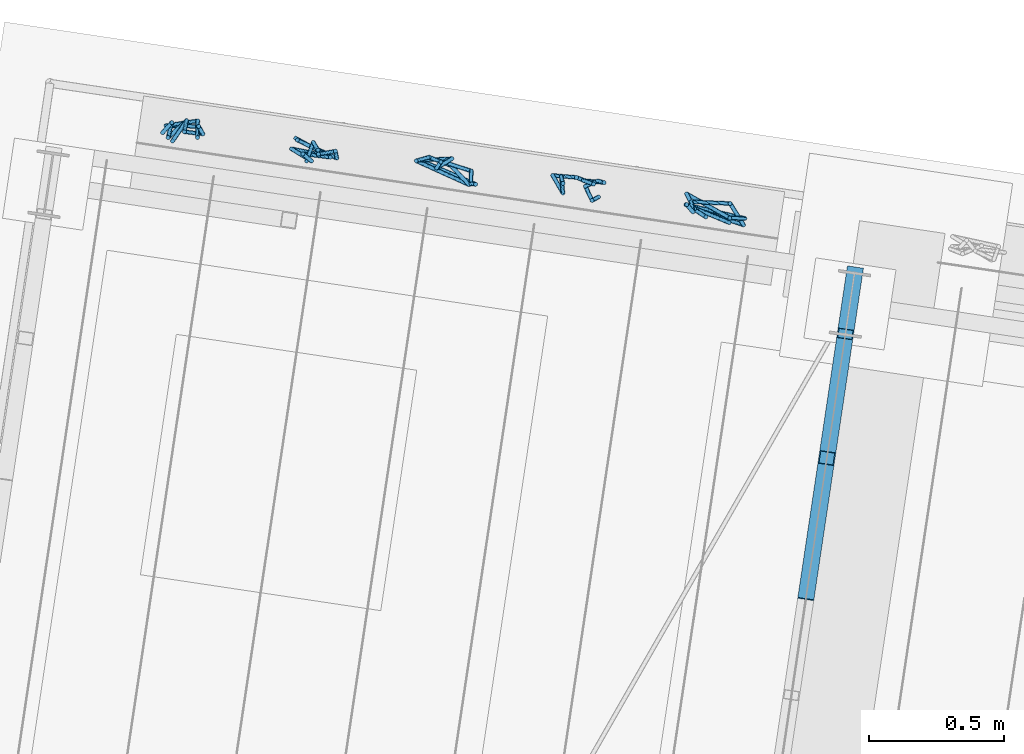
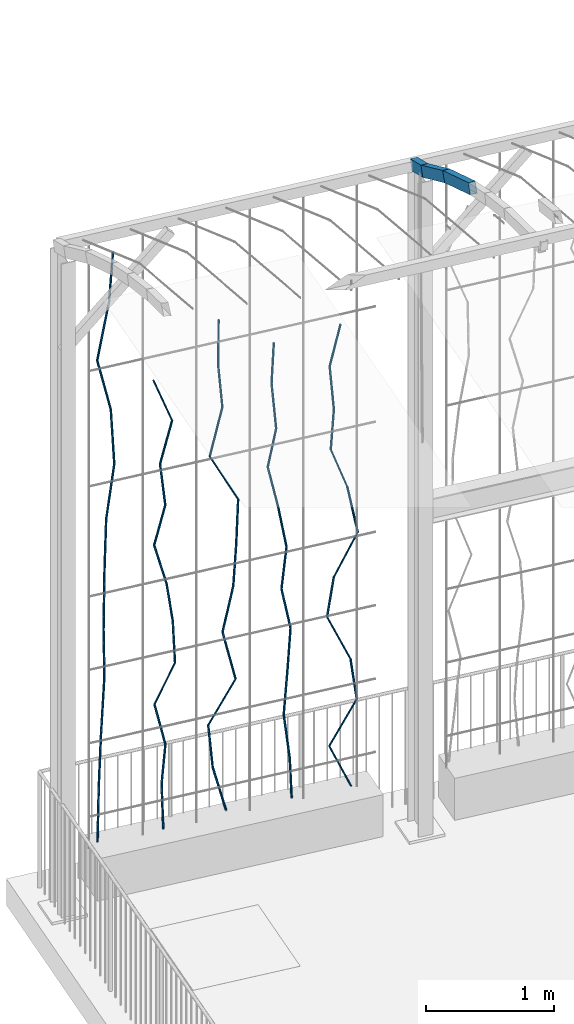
# One storey, part 112 of 142: 58 members, 2 elements without a shape of their own.
"""IFC4 building model written with IfcOpenShell, lengths in metres."""

from ifc_helpers import new_model, si_unit, direction, frame, origin_with_axes, place, context, subcontext, project, spatial, hollow_rectangle, circle, extrude, material, material_profile, profile_set, profile_usage, type_object, element, aggregate, save


model = new_model("IFC4")

# Units and contexts
model_context = context("Model", 3, precision=1e-05, world=origin_with_axes(), true_north=direction((0.0, 1.0)))
body_context = subcontext(model_context, "Body", "Model", "MODEL_VIEW")
ifc_project = project(units=[si_unit("LENGTHUNIT", "METRE"), si_unit("AREAUNIT", "SQUARE_METRE"), si_unit("VOLUMEUNIT", "CUBIC_METRE")], contexts=[model_context])

# Site, building, storey
site_placement = place(None, origin_with_axes())
site = spatial("IfcSite", under=ifc_project, at=site_placement, Name="Lares · Rua das Mercês · artigo 4771")
building_placement = place(site_placement, frame((15.0, 9.7, 14.65), z_axis=(0.0, 0.0, 1.0), x_axis=(0.989015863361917, -0.147809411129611, 0.0)))
building = spatial("IfcBuilding", under=site, at=building_placement, Name="Casa Sobreposta")
storey_placement = place(building_placement, origin_with_axes())
storey = spatial("IfcBuildingStorey", under=building, at=storey_placement, Name="00 · Habitação e estacionamento", Elevation=14.65)

# Assembly, members
assembly_1_placement = place(storey_placement, origin_with_axes())
assembly_1 = element("IfcElementAssembly", 1, at=assembly_1_placement, inside=storey, Name="Pérgola · prolongamento da estufa 6 m", ObjectType="PERGOLA_GREENHOUSE_EXTENSION", PredefinedType="USERDEFINED")
ifc_material_1 = material(Name="Aço pintado / Stahl lackiert", Category="steel")
ifc_material_profile_1 = material_profile(ifc_material_1, hollow_rectangle(XDim=0.06, YDim=0.1, WallThickness=0.004))
ifc_profile_set_1 = profile_set([ifc_material_profile_1], Name="RHS100x60x4")
ifc_profile_usage_1 = profile_usage(ifc_profile_set_1)
member_type_1 = type_object("IfcMemberType", Name="RHS100x60x4 / steel", PredefinedType="NOTDEFINED", material=ifc_profile_set_1)
member_1_placement = place(assembly_1_placement, frame((-3.0, 5.15650506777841, 6.8157371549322), z_axis=(0.0, 0.915895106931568, -0.401417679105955), x_axis=(1.0, 0.0, 0.0)))
member_1 = element("IfcMember", 2, at=member_1_placement, type_object=member_type_1, material=ifc_profile_usage_1, Name="Pérgola · arco contínuo com a estufa", context=body_context, shape_type="SweptSolid", body=[
    extrude(hollow_rectangle(XDim=0.06, YDim=0.1, WallThickness=0.004), origin_with_axes(), (0.0, 0.0, 1.0), 0.596721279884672),
])
ifc_profile_usage_2 = profile_usage(ifc_profile_set_1)
member_2_placement = place(assembly_1_placement, frame((-3.0, 5.70303916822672, 6.57620268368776), z_axis=(0.0, 0.878867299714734, -0.477066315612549), x_axis=(1.0, 0.0, 0.0)))
member_2 = element("IfcMember", 3, at=member_2_placement, type_object=member_type_1, material=ifc_profile_usage_2, Name="Pérgola · arco contínuo com a estufa", context=body_context, shape_type="SweptSolid", body=[
    extrude(hollow_rectangle(XDim=0.06, YDim=0.1, WallThickness=0.004), origin_with_axes(), (0.0, 0.0, 1.0), 0.52859183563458),
])
ifc_profile_usage_3 = profile_usage(ifc_profile_set_1)
member_3_placement = place(assembly_1_placement, frame((-3.0, 6.16760124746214, 6.3240293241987), z_axis=(0.0, 0.932880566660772, -0.360185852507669), x_axis=(1.0, 0.0, 0.0)))
member_3 = element("IfcMember", 4, at=member_3_placement, type_object=member_type_1, material=ifc_profile_usage_3, Name="Pérgola · arco contínuo com a estufa", context=body_context, shape_type="SweptSolid", body=[
    extrude(hollow_rectangle(XDim=0.06, YDim=0.1, WallThickness=0.004), origin_with_axes(), (0.0, 0.0, 1.0), 0.249119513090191),
])
aggregate(assembly_1, [member_1, member_2, member_3])

assembly_2_placement = place(storey_placement, origin_with_axes())
assembly_2 = element("IfcElementAssembly", 5, at=assembly_2_placement, inside=storey, Name="Fachada sul e pátio · estrutura e trepadeiras", ObjectType="LIVING_SHADE_TRELLIS", PredefinedType="USERDEFINED")
ifc_material_2 = material(Name="Ramos de trepadeiras", Category="wood")
ifc_material_profile_2 = material_profile(ifc_material_2, circle(Radius=0.0075))
ifc_profile_set_2 = profile_set([ifc_material_profile_2], Name="D0.015")
ifc_profile_usage_4 = profile_usage(ifc_profile_set_2)
member_type_2 = type_object("IfcMemberType", Name="D0.015 / vine_wood", PredefinedType="NOTDEFINED", material=ifc_profile_set_2)
member_4_placement = place(assembly_2_placement, frame((-5.61062551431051, 6.53102255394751, 0.35), z_axis=(0.0548183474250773, 0.0823641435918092, 0.995093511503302), x_axis=(0.83247493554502, -0.554062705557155, 0.0)))
member_4 = element("IfcMember", 6, at=member_4_placement, type_object=member_type_2, material=ifc_profile_usage_4, Name="Trepadeiras · ramo", context=body_context, shape_type="SweptSolid", body=[
    extrude(circle(Radius=0.0075), origin_with_axes(), (0.0, 0.0, 1.0), 0.511123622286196),
])
ifc_profile_usage_5 = profile_usage(ifc_profile_set_2)
member_5_placement = place(assembly_2_placement, frame((-5.58260656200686, 6.57312081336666, 0.858615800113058), z_axis=(-0.00976761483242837, -0.111772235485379, 0.993685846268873), x_axis=(-0.996203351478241, 0.0870567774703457, 0.0)))
member_5 = element("IfcMember", 7, at=member_5_placement, type_object=member_type_2, material=ifc_profile_usage_5, Name="Trepadeiras · ramo", context=body_context, shape_type="SweptSolid", body=[
    extrude(circle(Radius=0.0075), origin_with_axes(), (0.0, 0.0, 1.0), 0.511847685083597),
])
ifc_profile_usage_6 = profile_usage(ifc_profile_set_2)
member_6_placement = place(assembly_2_placement, frame((-5.58760609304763, 6.51591045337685, 1.36723160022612), z_axis=(0.112625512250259, 0.141112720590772, 0.983566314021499), x_axis=(0.781583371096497, -0.6238007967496, 0.0)))
member_6 = element("IfcMember", 8, at=member_6_placement, type_object=member_type_2, material=ifc_profile_usage_6, Name="Trepadeiras · ramo", context=body_context, shape_type="SweptSolid", body=[
    extrude(circle(Radius=0.0075), origin_with_axes(), (0.0, 0.0, 1.0), 0.517113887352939),
])
ifc_profile_usage_7 = profile_usage(ifc_profile_set_2)
member_7_placement = place(assembly_2_placement, frame((-5.52936587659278, 6.58888180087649, 1.87584740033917), z_axis=(-0.0781133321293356, -0.161839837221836, 0.983720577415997), x_axis=(-0.90058702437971, 0.434675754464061, 0.0)))
member_7 = element("IfcMember", 9, at=member_7_placement, type_object=member_type_2, material=ifc_profile_usage_7, Name="Trepadeiras · ramo", context=body_context, shape_type="SweptSolid", body=[
    extrude(circle(Radius=0.0075), origin_with_axes(), (0.0, 0.0, 1.0), 0.517032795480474),
])
ifc_profile_usage_8 = profile_usage(ifc_profile_set_2)
member_8_placement = place(assembly_2_placement, frame((-5.56975303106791, 6.50520529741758, 2.38446320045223), z_axis=(0.078738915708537, 0.159780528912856, 0.984007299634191), x_axis=(0.89699768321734, -0.442035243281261, 0.0)))
member_8 = element("IfcMember", 10, at=member_8_placement, type_object=member_type_2, material=ifc_profile_usage_8, Name="Trepadeiras · ramo", context=body_context, shape_type="SweptSolid", body=[
    extrude(circle(Radius=0.0075), origin_with_axes(), (0.0, 0.0, 1.0), 0.516882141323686),
])
ifc_profile_usage_9 = profile_usage(ifc_profile_set_2)
member_9_placement = place(assembly_2_placement, frame((-5.52905429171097, 6.58779299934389, 2.89307900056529), z_axis=(-0.00477616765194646, -0.0816811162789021, 0.996647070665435), x_axis=(-0.998294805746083, 0.0583736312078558, 0.0)))
member_9 = element("IfcMember", 11, at=member_9_placement, type_object=member_type_2, material=ifc_profile_usage_9, Name="Trepadeiras · ramo", context=body_context, shape_type="SweptSolid", body=[
    extrude(circle(Radius=0.0075), origin_with_axes(), (0.0, 0.0, 1.0), 0.510326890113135),
])
ifc_profile_usage_10 = profile_usage(ifc_profile_set_2)
member_10_placement = place(assembly_2_placement, frame((-5.53149169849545, 6.54610892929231, 3.40169480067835), z_axis=(0.134710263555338, 0.00481535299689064, 0.990873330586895), x_axis=(0.0357231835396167, -0.999361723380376, -7.96985533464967e-19)))
member_10 = element("IfcMember", 12, at=member_10_placement, type_object=member_type_2, material=ifc_profile_usage_10, Name="Trepadeiras · ramo", context=body_context, shape_type="SweptSolid", body=[
    extrude(circle(Radius=0.0075), origin_with_axes(), (0.0, 0.0, 1.0), 0.513300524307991),
])
ifc_profile_usage_11 = profile_usage(ifc_profile_set_2)
member_11_placement = place(assembly_2_placement, frame((-5.46234484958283, 6.54858065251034, 3.91031060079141), z_axis=(-0.0383027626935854, 0.0489541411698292, 0.99806632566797), x_axis=(0.787576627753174, 0.616216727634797, 0.0)))
member_11 = element("IfcMember", 13, at=member_11_placement, type_object=member_type_2, material=ifc_profile_usage_11, Name="Trepadeiras · ramo", context=body_context, shape_type="SweptSolid", body=[
    extrude(circle(Radius=0.0075), origin_with_axes(), (0.0, 0.0, 1.0), 0.509601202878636),
])
ifc_profile_usage_12 = profile_usage(ifc_profile_set_2)
member_12_placement = place(assembly_2_placement, frame((-5.48186398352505, 6.57352774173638, 4.41892640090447), z_axis=(-0.229983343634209, -0.028965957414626, 0.972763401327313), x_axis=(-0.124960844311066, 0.992161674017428, 0.0)))
member_12 = element("IfcMember", 14, at=member_12_placement, type_object=member_type_2, material=ifc_profile_usage_12, Name="Trepadeiras · ramo", context=body_context, shape_type="SweptSolid", body=[
    extrude(circle(Radius=0.0075), origin_with_axes(), (0.0, 0.0, 1.0), 0.522856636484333),
])
ifc_profile_usage_13 = profile_usage(ifc_profile_set_2)
member_13_placement = place(assembly_2_placement, frame((-5.60211230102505, 6.55838269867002, 4.92754220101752), z_axis=(0.217821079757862, 0.0672022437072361, 0.973672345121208), x_axis=(0.294808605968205, -0.955556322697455, 0.0)))
member_13 = element("IfcMember", 15, at=member_13_placement, type_object=member_type_2, material=ifc_profile_usage_13, Name="Trepadeiras · ramo", context=body_context, shape_type="SweptSolid", body=[
    extrude(circle(Radius=0.0075), origin_with_axes(), (0.0, 0.0, 1.0), 0.522368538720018),
])
ifc_profile_usage_14 = profile_usage(ifc_profile_set_2)
member_14_placement = place(assembly_2_placement, frame((-5.48832942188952, 6.59348703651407, 5.43615800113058), z_axis=(0.0159287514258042, -0.120372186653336, 0.992601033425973), x_axis=(-0.991357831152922, -0.131185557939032, 0.0)))
member_14 = element("IfcMember", 16, at=member_14_placement, type_object=member_type_2, material=ifc_profile_usage_14, Name="Trepadeiras · ramo", context=body_context, shape_type="SweptSolid", body=[
    extrude(circle(Radius=0.0075), origin_with_axes(), (0.0, 0.0, 1.0), 0.512407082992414),
])
ifc_profile_usage_15 = profile_usage(ifc_profile_set_2)
member_15_placement = place(assembly_2_placement, frame((-5.06742901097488, 6.50636980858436, 0.35), z_axis=(0.0353901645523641, 0.18278637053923, 0.982515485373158), x_axis=(0.981767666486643, -0.190084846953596, 0.0)))
member_15 = element("IfcMember", 17, at=member_15_placement, type_object=member_type_2, material=ifc_profile_usage_15, Name="Trepadeiras · ramo", context=body_context, shape_type="SweptSolid", body=[
    extrude(circle(Radius=0.0075), origin_with_axes(), (0.0, 0.0, 1.0), 0.393038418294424),
])
ifc_profile_usage_16 = profile_usage(ifc_profile_set_2)
member_16_placement = place(assembly_2_placement, frame((-5.05351931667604, 6.57821187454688, 0.736166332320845), z_axis=(0.0556737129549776, -0.068234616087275, 0.996114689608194), x_axis=(-0.774817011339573, -0.632185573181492, 0.0)))
member_16 = element("IfcMember", 18, at=member_16_placement, type_object=member_type_2, material=ifc_profile_usage_16, Name="Trepadeiras · ramo", context=body_context, shape_type="SweptSolid", body=[
    extrude(circle(Radius=0.0075), origin_with_axes(), (0.0, 0.0, 1.0), 0.387672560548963),
])
ifc_profile_usage_17 = profile_usage(ifc_profile_set_2)
member_17_placement = place(assembly_2_placement, frame((-5.03193614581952, 6.55175918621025, 1.12233266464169), z_axis=(-0.205369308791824, 0.0655980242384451, 0.976483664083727), x_axis=(0.304270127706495, 0.952585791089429, 0.0)))
member_17 = element("IfcMember", 19, at=member_17_placement, type_object=member_type_2, material=ifc_profile_usage_17, Name="Trepadeiras · ramo", context=body_context, shape_type="SweptSolid", body=[
    extrude(circle(Radius=0.0075), origin_with_axes(), (0.0, 0.0, 1.0), 0.395466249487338),
])
ifc_profile_usage_18 = profile_usage(ifc_profile_set_2)
member_18_placement = place(assembly_2_placement, frame((-5.11315277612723, 6.57770099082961, 1.50849899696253), z_axis=(0.369026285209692, -0.107377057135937, 0.923195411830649), x_axis=(-0.279387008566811, -0.960178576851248, -1.66678120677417e-17)))
member_18 = element("IfcMember", 20, at=member_18_placement, type_object=member_type_2, material=ifc_profile_usage_18, Name="Trepadeiras · ramo", context=body_context, shape_type="SweptSolid", body=[
    extrude(circle(Radius=0.0075), origin_with_axes(), (0.0, 0.0, 1.0), 0.41829316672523),
])
ifc_profile_usage_19 = profile_usage(ifc_profile_set_2)
member_19_placement = place(assembly_2_placement, frame((-4.95879160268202, 6.53278590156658, 1.89466532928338), z_axis=(-0.0229513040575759, 0.0642605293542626, 0.997669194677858), x_axis=(0.941736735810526, 0.336350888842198, 3.17038529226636e-18)))
member_19 = element("IfcMember", 21, at=member_19_placement, type_object=member_type_2, material=ifc_profile_usage_19, Name="Trepadeiras · ramo", context=body_context, shape_type="SweptSolid", body=[
    extrude(circle(Radius=0.0075), origin_with_axes(), (0.0, 0.0, 1.0), 0.387068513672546),
])
ifc_profile_usage_20 = profile_usage(ifc_profile_set_2)
member_20_placement = place(assembly_2_placement, frame((-4.96767532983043, 6.55765912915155, 2.28083166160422), z_axis=(-0.154656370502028, -0.0516676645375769, 0.986616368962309), x_axis=(-0.316865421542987, 0.948470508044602, 0.0)))
member_20 = element("IfcMember", 22, at=member_20_placement, type_object=member_type_2, material=ifc_profile_usage_20, Name="Trepadeiras · ramo", context=body_context, shape_type="SweptSolid", body=[
    extrude(circle(Radius=0.0075), origin_with_axes(), (0.0, 0.0, 1.0), 0.391404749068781),
])
ifc_profile_usage_21 = profile_usage(ifc_profile_set_2)
member_21_placement = place(assembly_2_placement, frame((-5.02820856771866, 6.53743615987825, 2.66699799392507), z_axis=(-0.254671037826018, 0.0128912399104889, 0.966941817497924), x_axis=(0.0505544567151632, 0.998721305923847, 0.0)))
member_21 = element("IfcMember", 23, at=member_21_placement, type_object=member_type_2, material=ifc_profile_usage_21, Name="Trepadeiras · ramo", context=body_context, shape_type="SweptSolid", body=[
    extrude(circle(Radius=0.0075), origin_with_axes(), (0.0, 0.0, 1.0), 0.399368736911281),
])
ifc_profile_usage_22 = profile_usage(ifc_profile_set_2)
member_22_placement = place(assembly_2_placement, frame((-5.12991621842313, 6.54258451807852, 3.05316432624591), z_axis=(0.202327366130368, -0.0854035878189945, 0.975586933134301), x_axis=(-0.388881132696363, -0.921287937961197, 0.0)))
member_22 = element("IfcMember", 24, at=member_22_placement, type_object=member_type_2, material=ifc_profile_usage_22, Name="Trepadeiras · ramo", context=body_context, shape_type="SweptSolid", body=[
    extrude(circle(Radius=0.0075), origin_with_axes(), (0.0, 0.0, 1.0), 0.395829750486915),
])
ifc_profile_usage_23 = profile_usage(ifc_profile_set_2)
member_23_placement = place(assembly_2_placement, frame((-5.04982902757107, 6.50877923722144, 3.43933065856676), z_axis=(-0.0916184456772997, 0.0549727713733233, 0.994275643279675), x_axis=(0.514507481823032, 0.857485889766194, 0.0)))
member_23 = element("IfcMember", 25, at=member_23_placement, type_object=member_type_2, material=ifc_profile_usage_23, Name="Trepadeiras · ramo", context=body_context, shape_type="SweptSolid", body=[
    extrude(circle(Radius=0.0075), origin_with_axes(), (0.0, 0.0, 1.0), 0.388389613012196),
])
ifc_profile_usage_24 = profile_usage(ifc_profile_set_2)
member_24_placement = place(assembly_2_placement, frame((-5.08541268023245, 6.53013009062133, 3.8254969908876), z_axis=(0.256565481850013, 0.00653359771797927, 0.966504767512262), x_axis=(0.0254573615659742, -0.999675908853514, 0.0)))
member_24 = element("IfcMember", 26, at=member_24_placement, type_object=member_type_2, material=ifc_profile_usage_24, Name="Trepadeiras · ramo", context=body_context, shape_type="SweptSolid", body=[
    extrude(circle(Radius=0.0075), origin_with_axes(), (0.0, 0.0, 1.0), 0.39954933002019),
])
ifc_profile_usage_25 = profile_usage(ifc_profile_set_2)
member_25_placement = place(assembly_2_placement, frame((-4.98290211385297, 6.53274058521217, 4.21166332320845), z_axis=(-0.333263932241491, 0.122975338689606, 0.934779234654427), x_axis=(0.346185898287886, 0.938165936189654, 0.0)))
member_25 = element("IfcMember", 27, at=member_25_placement, type_object=member_type_2, material=ifc_profile_usage_25, Name="Trepadeiras · ramo", context=body_context, shape_type="SweptSolid", body=[
    extrude(circle(Radius=0.0075), origin_with_axes(), (0.0, 0.0, 1.0), 0.413109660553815),
])
ifc_profile_usage_26 = profile_usage(ifc_profile_set_2)
member_26_placement = place(assembly_2_placement, frame((-4.516484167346, 6.56319348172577, 0.35), z_axis=(-0.237502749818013, 0.0547067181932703, 0.969845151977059), x_axis=(0.224463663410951, 0.974482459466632, 0.0)))
member_26 = element("IfcMember", 28, at=member_26_placement, type_object=member_type_2, material=ifc_profile_usage_26, Name="Trepadeiras · ramo", context=body_context, shape_type="SweptSolid", body=[
    extrude(circle(Radius=0.0075), origin_with_axes(), (0.0, 0.0, 1.0), 0.439365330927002),
])
ifc_profile_usage_27 = profile_usage(ifc_profile_set_2)
member_27_placement = place(assembly_2_placement, frame((-4.62083464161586, 6.58722971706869, 0.776116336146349), z_axis=(-0.106307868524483, -0.0477073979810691, 0.993188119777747), x_axis=(-0.409428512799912, 0.912342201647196, 0.0)))
member_27 = element("IfcMember", 29, at=member_27_placement, type_object=member_type_2, material=ifc_profile_usage_27, Name="Trepadeiras · ramo", context=body_context, shape_type="SweptSolid", body=[
    extrude(circle(Radius=0.0075), origin_with_axes(), (0.0, 0.0, 1.0), 0.429038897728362),
])
ifc_profile_usage_28 = profile_usage(ifc_profile_set_2)
member_28_placement = place(assembly_2_placement, frame((-4.66644485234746, 6.5667613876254, 1.2022326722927), z_axis=(0.43290575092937, -0.123104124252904, 0.892993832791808), x_axis=(-0.273522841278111, -0.961865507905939, 0.0)))
member_28 = element("IfcMember", 30, at=member_28_placement, type_object=member_type_2, material=ifc_profile_usage_28, Name="Trepadeiras · ramo", context=body_context, shape_type="SweptSolid", body=[
    extrude(circle(Radius=0.0075), origin_with_axes(), (0.0, 0.0, 1.0), 0.47717724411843),
])
ifc_profile_usage_29 = profile_usage(ifc_profile_set_2)
member_29_placement = place(assembly_2_placement, frame((-4.45987207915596, 6.50801890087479, 1.62834900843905), z_axis=(-0.190491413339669, 0.14988591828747, 0.970178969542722), x_axis=(0.618367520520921, 0.785889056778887, 0.0)))
member_29 = element("IfcMember", 31, at=member_29_placement, type_object=member_type_2, material=ifc_profile_usage_29, Name="Trepadeiras · ramo", context=body_context, shape_type="SweptSolid", body=[
    extrude(circle(Radius=0.0075), origin_with_axes(), (0.0, 0.0, 1.0), 0.43921415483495),
])
ifc_profile_usage_30 = profile_usage(ifc_profile_set_2)
member_30_placement = place(assembly_2_placement, frame((-4.54353860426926, 6.57385091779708, 2.0544653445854), z_axis=(0.1941509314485, -0.0330556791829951, 0.980414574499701), x_axis=(-0.167842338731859, -0.985813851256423, -4.3178291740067e-18)))
member_30 = element("IfcMember", 32, at=member_30_placement, type_object=member_type_2, material=ifc_profile_usage_30, Name="Trepadeiras · ramo", context=body_context, shape_type="SweptSolid", body=[
    extrude(circle(Radius=0.0075), origin_with_axes(), (0.0, 0.0, 1.0), 0.434628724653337),
])
ifc_profile_usage_31 = profile_usage(ifc_profile_set_2)
member_31_placement = place(assembly_2_placement, frame((-4.45915503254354, 6.55948397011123, 2.48058168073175), z_axis=(0.0144929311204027, -0.109943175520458, 0.993832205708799), x_axis=(-0.991423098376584, -0.130691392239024, 0.0)))
member_31 = element("IfcMember", 33, at=member_31_placement, type_object=member_type_2, material=ifc_profile_usage_31, Name="Trepadeiras · ramo", context=body_context, shape_type="SweptSolid", body=[
    extrude(circle(Radius=0.0075), origin_with_axes(), (0.0, 0.0, 1.0), 0.428760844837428),
])
ifc_profile_usage_32 = profile_usage(ifc_profile_set_2)
member_32_placement = place(assembly_2_placement, frame((-4.45294103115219, 6.51234464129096, 2.90669801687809), z_axis=(0.0391360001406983, 0.00180597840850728, 0.999232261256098), x_axis=(0.999233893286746, -7.07329602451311e-05, -0.0391359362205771)))
member_32 = element("IfcMember", 34, at=member_32_placement, type_object=member_type_2, material=ifc_profile_usage_32, Name="Trepadeiras · ramo", context=body_context, shape_type="SweptSolid", body=[
    extrude(circle(Radius=0.0075), origin_with_axes(), (0.0, 0.0, 1.0), 0.426443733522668),
])
ifc_profile_usage_33 = profile_usage(ifc_profile_set_2)
member_33_placement = place(assembly_2_placement, frame((-4.43625172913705, 6.51311478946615, 3.33281435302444), z_axis=(-0.448214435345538, 0.121140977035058, 0.885679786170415), x_axis=(0.26091291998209, 0.965362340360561, 0.0)))
member_33 = element("IfcMember", 35, at=member_33_placement, type_object=member_type_2, material=ifc_profile_usage_33, Name="Trepadeiras · ramo", context=body_context, shape_type="SweptSolid", body=[
    extrude(circle(Radius=0.0075), origin_with_axes(), (0.0, 0.0, 1.0), 0.481117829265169),
])
ifc_profile_usage_34 = profile_usage(ifc_profile_set_2)
member_34_placement = place(assembly_2_placement, frame((-4.6518956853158, 6.57139787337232, 3.75893068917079), z_axis=(0.26034641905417, 0.0511473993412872, 0.964159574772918), x_axis=(0.192774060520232, -0.981243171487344, 0.0)))
member_34 = element("IfcMember", 36, at=member_34_placement, type_object=member_type_2, material=ifc_profile_usage_34, Name="Trepadeiras · ramo", context=body_context, shape_type="SweptSolid", body=[
    extrude(circle(Radius=0.0075), origin_with_axes(), (0.0, 0.0, 1.0), 0.441956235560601),
])
ifc_profile_usage_35 = profile_usage(ifc_profile_set_2)
member_35_placement = place(assembly_2_placement, frame((-4.53683396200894, 6.59400278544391, 4.18504702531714), z_axis=(-0.11744994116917, -0.0987498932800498, 0.988156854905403), x_axis=(-0.643543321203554, 0.765409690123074, 0.0)))
member_35 = element("IfcMember", 37, at=member_35_placement, type_object=member_type_2, material=ifc_profile_usage_35, Name="Trepadeiras · ramo", context=body_context, shape_type="SweptSolid", body=[
    extrude(circle(Radius=0.0075), origin_with_axes(), (0.0, 0.0, 1.0), 0.431223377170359),
])
ifc_profile_usage_36 = profile_usage(ifc_profile_set_2)
member_36_placement = place(assembly_2_placement, frame((-4.58748112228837, 6.55141952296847, 4.61116336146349), z_axis=(0.0271477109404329, 0.0579863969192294, 0.997948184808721), x_axis=(0.905659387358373, -0.424005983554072, 0.0)))
member_36 = element("IfcMember", 38, at=member_36_placement, type_object=member_type_2, material=ifc_profile_usage_36, Name="Trepadeiras · ramo", context=body_context, shape_type="SweptSolid", body=[
    extrude(circle(Radius=0.0075), origin_with_axes(), (0.0, 0.0, 1.0), 0.426992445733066),
])
ifc_profile_usage_37 = profile_usage(ifc_profile_set_2)
member_37_placement = place(assembly_2_placement, frame((-3.97859289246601, 6.53402138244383, 0.35), z_axis=(-0.0559624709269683, -0.0404002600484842, 0.997615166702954), x_axis=(-0.585327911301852, 0.810796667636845, 0.0)))
member_37 = element("IfcMember", 39, at=member_37_placement, type_object=member_type_2, material=ifc_profile_usage_37, Name="Trepadeiras · ramo", context=body_context, shape_type="SweptSolid", body=[
    extrude(circle(Radius=0.0075), origin_with_axes(), (0.0, 0.0, 1.0), 0.397059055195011),
])
ifc_profile_usage_38 = profile_usage(ifc_profile_set_2)
member_38_placement = place(assembly_2_placement, frame((-4.00081329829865, 6.51798009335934, 0.746112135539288), z_axis=(-0.0802060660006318, 0.119900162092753, 0.989540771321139), x_axis=(0.831177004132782, 0.556007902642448, 0.0)))
member_38 = element("IfcMember", 40, at=member_38_placement, type_object=member_type_2, material=ifc_profile_usage_38, Name="Trepadeiras · ramo", context=body_context, shape_type="SweptSolid", body=[
    extrude(circle(Radius=0.0075), origin_with_axes(), (0.0, 0.0, 1.0), 0.400298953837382),
])
ifc_profile_usage_39 = profile_usage(ifc_profile_set_2)
member_39_placement = place(assembly_2_placement, frame((-4.03291970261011, 6.56597600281, 1.14222427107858), z_axis=(0.104885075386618, 0.0666123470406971, 0.992250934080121), x_axis=(0.536115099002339, -0.844144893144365, 0.0)))
member_39 = element("IfcMember", 41, at=member_39_placement, type_object=member_type_2, material=ifc_profile_usage_39, Name="Trepadeiras · ramo", context=body_context, shape_type="SweptSolid", body=[
    extrude(circle(Radius=0.0075), origin_with_axes(), (0.0, 0.0, 1.0), 0.399205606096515),
])
ifc_profile_usage_40 = profile_usage(ifc_profile_set_2)
member_40_placement = place(assembly_2_placement, frame((-3.99104899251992, 6.5925680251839, 1.53833640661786), z_axis=(0.0626536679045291, -0.00712374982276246, 0.998009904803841), x_axis=(-0.112972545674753, -0.993598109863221, 0.0)))
member_40 = element("IfcMember", 42, at=member_40_placement, type_object=member_type_2, material=ifc_profile_usage_40, Name="Trepadeiras · ramo", context=body_context, shape_type="SweptSolid", body=[
    extrude(circle(Radius=0.0075), origin_with_axes(), (0.0, 0.0, 1.0), 0.396902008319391),
])
ifc_profile_usage_41 = profile_usage(ifc_profile_set_2)
member_41_placement = place(assembly_2_placement, frame((-3.96618162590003, 6.58974059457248, 1.93444854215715), z_axis=(-0.192543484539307, -0.00909052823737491, 0.981246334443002), x_axis=(-0.0471603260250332, 0.998887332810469, 0.0)))
member_41 = element("IfcMember", 43, at=member_41_placement, type_object=member_type_2, material=ifc_profile_usage_41, Name="Trepadeiras · ramo", context=body_context, shape_type="SweptSolid", body=[
    extrude(circle(Radius=0.0075), origin_with_axes(), (0.0, 0.0, 1.0), 0.403682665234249),
])
ifc_profile_usage_42 = profile_usage(ifc_profile_set_2)
member_42_placement = place(assembly_2_placement, frame((-4.04390809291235, 6.58607090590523, 2.33056067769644), z_axis=(0.0995202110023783, -0.0194869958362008, 0.99484470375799), x_axis=(-0.192160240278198, -0.981363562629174, 0.0)))
member_42 = element("IfcMember", 44, at=member_42_placement, type_object=member_type_2, material=ifc_profile_usage_42, Name="Trepadeiras · ramo", context=body_context, shape_type="SweptSolid", body=[
    extrude(circle(Radius=0.0075), origin_with_axes(), (0.0, 0.0, 1.0), 0.398164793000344),
])
ifc_profile_usage_43 = profile_usage(ifc_profile_set_2)
member_43_placement = place(assembly_2_placement, frame((-4.00428264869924, 6.57831187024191, 2.72667281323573), z_axis=(-0.164761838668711, 0.0378014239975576, 0.985608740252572), x_axis=(0.223620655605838, 0.974676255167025, 0.0)))
member_43 = element("IfcMember", 45, at=member_43_placement, type_object=member_type_2, material=ifc_profile_usage_43, Name="Trepadeiras · ramo", context=body_context, shape_type="SweptSolid", body=[
    extrude(circle(Radius=0.0075), origin_with_axes(), (0.0, 0.0, 1.0), 0.401895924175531),
])
ifc_profile_usage_44 = profile_usage(ifc_profile_set_2)
member_44_placement = place(assembly_2_placement, frame((-4.07049976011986, 6.59350410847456, 3.12278494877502), z_axis=(-0.217023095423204, -0.0139242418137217, 0.976067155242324), x_axis=(-0.0640285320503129, 0.997948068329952, 0.0)))
member_44 = element("IfcMember", 46, at=member_44_placement, type_object=member_type_2, material=ifc_profile_usage_44, Name="Trepadeiras · ramo", context=body_context, shape_type="SweptSolid", body=[
    extrude(circle(Radius=0.0075), origin_with_axes(), (0.0, 0.0, 1.0), 0.405824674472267),
])
ifc_profile_usage_45 = profile_usage(ifc_profile_set_2)
member_45_placement = place(assembly_2_placement, frame((-4.15857308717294, 6.58785330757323, 3.51889708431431), z_axis=(0.117355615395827, -0.146977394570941, 0.982153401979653), x_axis=(-0.781455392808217, -0.623961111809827, 0.0)))
member_45 = element("IfcMember", 47, at=member_45_placement, type_object=member_type_2, material=ifc_profile_usage_45, Name="Trepadeiras · ramo", context=body_context, shape_type="SweptSolid", body=[
    extrude(circle(Radius=0.0075), origin_with_axes(), (0.0, 0.0, 1.0), 0.40330984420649),
])
ifc_profile_usage_46 = profile_usage(ifc_profile_set_2)
member_46_placement = place(assembly_2_placement, frame((-4.1112424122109, 6.52857587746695, 3.91500921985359), z_axis=(-0.038247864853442, 0.148096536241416, 0.988233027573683), x_axis=(0.968230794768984, 0.250058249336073, 0.0)))
member_46 = element("IfcMember", 48, at=member_46_placement, type_object=member_type_2, material=ifc_profile_usage_46, Name="Trepadeiras · ramo", context=body_context, shape_type="SweptSolid", body=[
    extrude(circle(Radius=0.0075), origin_with_axes(), (0.0, 0.0, 1.0), 0.400828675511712),
])
ifc_profile_usage_47 = profile_usage(ifc_profile_set_2)
member_47_placement = place(assembly_2_placement, frame((-4.12657325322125, 6.58793721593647, 4.31112135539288), z_axis=(0.0245630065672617, -0.0592559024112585, 0.997940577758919), x_axis=(-0.923778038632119, -0.382928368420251, 0.0)))
member_47 = element("IfcMember", 49, at=member_47_placement, type_object=member_type_2, material=ifc_profile_usage_47, Name="Trepadeiras · ramo", context=body_context, shape_type="SweptSolid", body=[
    extrude(circle(Radius=0.0075), origin_with_axes(), (0.0, 0.0, 1.0), 0.396929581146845),
])
ifc_profile_usage_48 = profile_usage(ifc_profile_set_2)
member_48_placement = place(assembly_2_placement, frame((-3.48595036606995, 6.51152451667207, 0.35), z_axis=(-0.387050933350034, 0.0963177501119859, 0.917013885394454), x_axis=(0.2414854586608, 0.970404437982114, 0.0)))
member_48 = element("IfcMember", 50, at=member_48_placement, type_object=member_type_2, material=ifc_profile_usage_48, Name="Trepadeiras · ramo", context=body_context, shape_type="SweptSolid", body=[
    extrude(circle(Radius=0.0075), origin_with_axes(), (0.0, 0.0, 1.0), 0.438608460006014),
])
ifc_profile_usage_49 = profile_usage(ifc_profile_set_2)
member_49_placement = place(assembly_2_placement, frame((-3.6557141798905, 6.55377029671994, 0.752210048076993), z_axis=(0.486269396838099, -0.0394758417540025, 0.872916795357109), x_axis=(-0.0809148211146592, -0.996721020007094, -6.2076865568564e-18)))
member_49 = element("IfcMember", 51, at=member_49_placement, type_object=member_type_2, material=ifc_profile_usage_49, Name="Trepadeiras · ramo", context=body_context, shape_type="SweptSolid", body=[
    extrude(circle(Radius=0.0075), origin_with_axes(), (0.0, 0.0, 1.0), 0.46076561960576),
])
ifc_profile_usage_50 = profile_usage(ifc_profile_set_2)
member_50_placement = place(assembly_2_placement, frame((-3.43165795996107, 6.53558118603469, 1.15442009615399), z_axis=(-0.13611773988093, -0.0169348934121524, 0.990547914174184), x_axis=(-0.123461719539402, 0.992349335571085, 0.0)))
member_50 = element("IfcMember", 52, at=member_50_placement, type_object=member_type_2, material=ifc_profile_usage_50, Name="Trepadeiras · ramo", context=body_context, shape_type="SweptSolid", body=[
    extrude(circle(Radius=0.0075), origin_with_axes(), (0.0, 0.0, 1.0), 0.406048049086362),
])
ifc_profile_usage_51 = profile_usage(ifc_profile_set_2)
member_51_placement = place(assembly_2_placement, frame((-3.48692830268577, 6.5287048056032, 1.55663014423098), z_axis=(-0.387536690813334, 0.147038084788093, 0.910052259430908), x_axis=(0.354741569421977, 0.934964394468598, 0.0)))
member_51 = element("IfcMember", 53, at=member_51_placement, type_object=member_type_2, material=ifc_profile_usage_51, Name="Trepadeiras · ramo", context=body_context, shape_type="SweptSolid", body=[
    extrude(circle(Radius=0.0075), origin_with_axes(), (0.0, 0.0, 1.0), 0.441963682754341),
])
ifc_profile_usage_52 = profile_usage(ifc_profile_set_2)
member_52_placement = place(assembly_2_placement, frame((-3.65820544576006, 6.59369029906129, 1.95884019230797), z_axis=(0.0899888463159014, -0.125264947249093, 0.98803375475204), x_axis=(-0.81215464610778, -0.583442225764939, 0.0)))
member_52 = element("IfcMember", 54, at=member_52_placement, type_object=member_type_2, material=ifc_profile_usage_52, Name="Trepadeiras · ramo", context=body_context, shape_type="SweptSolid", body=[
    extrude(circle(Radius=0.0075), origin_with_axes(), (0.0, 0.0, 1.0), 0.407081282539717),
])
ifc_profile_usage_53 = profile_usage(ifc_profile_set_2)
member_53_placement = place(assembly_2_placement, frame((-3.62157267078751, 6.54269728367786, 2.36105024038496), z_axis=(0.423820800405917, -0.0706905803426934, 0.902983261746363), x_axis=(-0.164520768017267, -0.98637361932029, 0.0)))
member_53 = element("IfcMember", 55, at=member_53_placement, type_object=member_type_2, material=ifc_profile_usage_53, Name="Trepadeiras · ramo", context=body_context, shape_type="SweptSolid", body=[
    extrude(circle(Radius=0.0075), origin_with_axes(), (0.0, 0.0, 1.0), 0.445423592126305),
])
ifc_profile_usage_54 = profile_usage(ifc_profile_set_2)
member_54_placement = place(assembly_2_placement, frame((-3.43279288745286, 6.51121003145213, 2.76326028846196), z_axis=(-0.146521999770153, 0.171712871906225, 0.974189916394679), x_axis=(0.760700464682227, 0.649103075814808, 0.0)))
member_54 = element("IfcMember", 56, at=member_54_placement, type_object=member_type_2, material=ifc_profile_usage_54, Name="Trepadeiras · ramo", context=body_context, shape_type="SweptSolid", body=[
    extrude(circle(Radius=0.0075), origin_with_axes(), (0.0, 0.0, 1.0), 0.412866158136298),
])
ifc_profile_usage_55 = profile_usage(ifc_profile_set_2)
member_55_placement = place(assembly_2_placement, frame((-3.49328686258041, 6.5821044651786, 3.16547033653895), z_axis=(-0.337061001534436, -0.0347303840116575, 0.940842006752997), x_axis=(-0.102496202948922, 0.99473339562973, 0.0)))
member_55 = element("IfcMember", 57, at=member_55_placement, type_object=member_type_2, material=ifc_profile_usage_55, Name="Trepadeiras · ramo", context=body_context, shape_type="SweptSolid", body=[
    extrude(circle(Radius=0.0075), origin_with_axes(), (0.0, 0.0, 1.0), 0.427500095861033),
])
ifc_profile_usage_56 = profile_usage(ifc_profile_set_2)
member_56_placement = place(assembly_2_placement, frame((-3.6373804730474, 6.56725722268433, 3.56768038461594), z_axis=(0.0295589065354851, -0.0886838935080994, 0.995621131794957), x_axis=(-0.948690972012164, -0.316204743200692, 0.0)))
member_56 = element("IfcMember", 58, at=member_56_placement, type_object=member_type_2, material=ifc_profile_usage_56, Name="Trepadeiras · ramo", context=body_context, shape_type="SweptSolid", body=[
    extrude(circle(Radius=0.0075), origin_with_axes(), (0.0, 0.0, 1.0), 0.403979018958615),
])
ifc_profile_usage_57 = profile_usage(ifc_profile_set_2)
member_57_placement = place(assembly_2_placement, frame((-3.62543929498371, 6.5314307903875, 3.96989043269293), z_axis=(-0.0654752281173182, 0.056205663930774, 0.9962700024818), x_axis=(0.651352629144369, 0.758775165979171, 0.0)))
member_57 = element("IfcMember", 59, at=member_57_placement, type_object=member_type_2, material=ifc_profile_usage_57, Name="Trepadeiras · ramo", context=body_context, shape_type="SweptSolid", body=[
    extrude(circle(Radius=0.0075), origin_with_axes(), (0.0, 0.0, 1.0), 0.403715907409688),
])
ifc_profile_usage_58 = profile_usage(ifc_profile_set_2)
member_58_placement = place(assembly_2_placement, frame((-3.65187268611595, 6.55412191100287, 4.37210048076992), z_axis=(0.186629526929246, -0.0839762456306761, 0.978834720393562), x_axis=(-0.410336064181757, -0.911934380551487, 0.0)))
member_58 = element("IfcMember", 60, at=member_58_placement, type_object=member_type_2, material=ifc_profile_usage_58, Name="Trepadeiras · ramo", context=body_context, shape_type="SweptSolid", body=[
    extrude(circle(Radius=0.0075), origin_with_axes(), (0.0, 0.0, 1.0), 0.41090700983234),
])
aggregate(assembly_2, [member_4, member_5, member_6, member_7, member_8, member_9, member_10, member_11, member_12, member_13, member_14, member_15, member_16, member_17, member_18, member_19, member_20, member_21, member_22, member_23, member_24, member_25, member_26, member_27, member_28, member_29, member_30, member_31, member_32, member_33, member_34, member_35, member_36, member_37, member_38, member_39, member_40, member_41, member_42, member_43, member_44, member_45, member_46, member_47, member_48, member_49, member_50, member_51, member_52, member_53, member_54, member_55, member_56, member_57, member_58])

save(model, "model.ifc")
